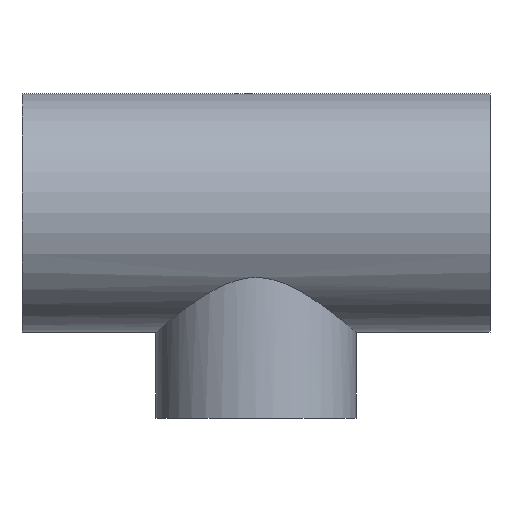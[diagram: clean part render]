
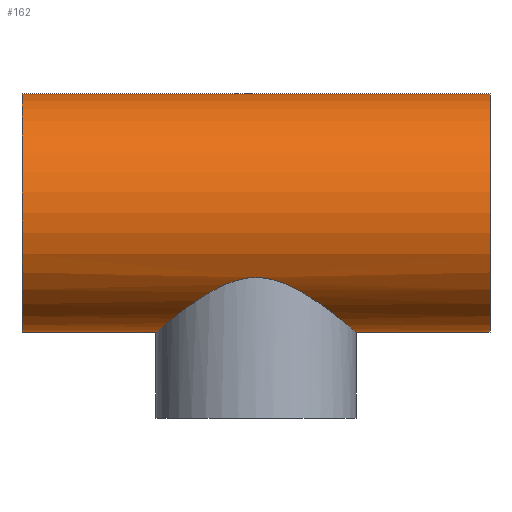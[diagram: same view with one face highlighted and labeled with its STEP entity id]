
A CAD part, top view. The second image highlights one B-rep face of the part: STEP entity #162.
In plain terms, the highlighted cylindrical face has radius 25 mm (diameter 50 mm), a full revolution.
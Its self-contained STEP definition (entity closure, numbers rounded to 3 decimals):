
#16=B_SPLINE_CURVE_WITH_KNOTS('',3,(#328,#329,#330,#331,#332,#333,#334,
#335,#336,#337,#338,#339,#340,#341,#342,#343,#344,#345,#346,#347,#348,#349,
#350,#351,#352,#353,#354,#355,#356,#357,#358,#359,#360,#361,#362,#363,#364,
#365,#366,#367,#368,#369,#370,#371,#372,#373,#374,#375,#376,#377,#378,#379,
#380,#381,#382,#383,#384,#385,#386,#387,#388,#389,#390,#391,#392,#393),
 .UNSPECIFIED.,.T.,.F.,(4,2,2,2,2,2,2,2,2,2,2,2,2,2,2,2,2,2,2,2,2,2,2,2,
2,2,2,2,2,2,2,2,4),(0.,0.439,0.878,1.317,
1.756,2.176,2.596,3.016,3.436,
3.856,4.276,4.696,5.116,5.555,
5.994,6.432,6.871,7.31,7.749,
8.188,8.627,9.047,9.467,9.887,
10.307,10.727,11.147,11.567,11.987,
12.426,12.865,13.304,13.743),
 .UNSPECIFIED.);
#32=FACE_BOUND('',#69,.T.);
#33=FACE_BOUND('',#70,.T.);
#46=FACE_OUTER_BOUND('',#68,.T.);
#68=EDGE_LOOP('',(#136));
#69=EDGE_LOOP('',(#137));
#70=EDGE_LOOP('',(#138));
#88=CIRCLE('',#187,25.);
#89=CIRCLE('',#188,25.);
#101=VERTEX_POINT('',#325);
#102=VERTEX_POINT('',#327);
#103=VERTEX_POINT('',#394);
#115=EDGE_CURVE('',#101,#101,#88,.T.);
#116=EDGE_CURVE('',#102,#102,#16,.T.);
#117=EDGE_CURVE('',#103,#103,#89,.T.);
#136=ORIENTED_EDGE('',*,*,#115,.F.);
#137=ORIENTED_EDGE('',*,*,#116,.T.);
#138=ORIENTED_EDGE('',*,*,#117,.F.);
#152=CYLINDRICAL_SURFACE('',#186,25.);
#162=ADVANCED_FACE('',(#46,#32,#33),#152,.T.);
#186=AXIS2_PLACEMENT_3D('',#324,#230,#231);
#187=AXIS2_PLACEMENT_3D('',#326,#232,#233);
#188=AXIS2_PLACEMENT_3D('',#395,#234,#235);
#230=DIRECTION('center_axis',(1.,0.,0.));
#231=DIRECTION('ref_axis',(0.,-1.,0.));
#232=DIRECTION('center_axis',(-1.,0.,0.));
#233=DIRECTION('ref_axis',(0.,-1.,0.));
#234=DIRECTION('center_axis',(1.,0.,0.));
#235=DIRECTION('ref_axis',(0.,-1.,0.));
#324=CARTESIAN_POINT('Origin',(0.,0.,0.));
#325=CARTESIAN_POINT('',(-49.,25.,0.));
#326=CARTESIAN_POINT('Origin',(-49.,0.,0.));
#327=CARTESIAN_POINT('',(0.,-13.565,21.));
#328=CARTESIAN_POINT('Ctrl Pts',(0.,-13.565,
21.));
#329=CARTESIAN_POINT('Ctrl Pts',(1.463,-13.565,21.));
#330=CARTESIAN_POINT('Ctrl Pts',(2.892,-13.807,20.847));
#331=CARTESIAN_POINT('Ctrl Pts',(5.645,-14.633,20.276));
#332=CARTESIAN_POINT('Ctrl Pts',(6.97,-15.212,19.857));
#333=CARTESIAN_POINT('Ctrl Pts',(9.49,-16.52,18.784));
#334=CARTESIAN_POINT('Ctrl Pts',(10.685,-17.248,18.128));
#335=CARTESIAN_POINT('Ctrl Pts',(12.907,-18.705,16.62));
#336=CARTESIAN_POINT('Ctrl Pts',(13.932,-19.435,15.766));
#337=CARTESIAN_POINT('Ctrl Pts',(15.727,-20.76,13.972));
#338=CARTESIAN_POINT('Ctrl Pts',(16.57,-21.409,12.971));
#339=CARTESIAN_POINT('Ctrl Pts',(18.085,-22.602,10.758));
#340=CARTESIAN_POINT('Ctrl Pts',(18.757,-23.146,9.546));
#341=CARTESIAN_POINT('Ctrl Pts',(19.857,-24.046,6.974));
#342=CARTESIAN_POINT('Ctrl Pts',(20.286,-24.403,5.611));
#343=CARTESIAN_POINT('Ctrl Pts',(20.858,-24.88,2.824));
#344=CARTESIAN_POINT('Ctrl Pts',(21.,-25.,1.4));
#345=CARTESIAN_POINT('Ctrl Pts',(21.,-25.,-1.4));
#346=CARTESIAN_POINT('Ctrl Pts',(20.858,-24.88,-2.824));
#347=CARTESIAN_POINT('Ctrl Pts',(20.286,-24.403,-5.611));
#348=CARTESIAN_POINT('Ctrl Pts',(19.857,-24.046,-6.974));
#349=CARTESIAN_POINT('Ctrl Pts',(18.757,-23.146,-9.546));
#350=CARTESIAN_POINT('Ctrl Pts',(18.085,-22.602,-10.758));
#351=CARTESIAN_POINT('Ctrl Pts',(16.57,-21.409,-12.971));
#352=CARTESIAN_POINT('Ctrl Pts',(15.727,-20.76,-13.972));
#353=CARTESIAN_POINT('Ctrl Pts',(13.932,-19.435,-15.766));
#354=CARTESIAN_POINT('Ctrl Pts',(12.907,-18.705,-16.62));
#355=CARTESIAN_POINT('Ctrl Pts',(10.685,-17.248,-18.128));
#356=CARTESIAN_POINT('Ctrl Pts',(9.49,-16.52,-18.784));
#357=CARTESIAN_POINT('Ctrl Pts',(6.97,-15.212,-19.857));
#358=CARTESIAN_POINT('Ctrl Pts',(5.645,-14.633,-20.276));
#359=CARTESIAN_POINT('Ctrl Pts',(2.892,-13.807,-20.847));
#360=CARTESIAN_POINT('Ctrl Pts',(1.463,-13.565,-21.));
#361=CARTESIAN_POINT('Ctrl Pts',(-1.463,-13.565,-21.));
#362=CARTESIAN_POINT('Ctrl Pts',(-2.892,-13.807,-20.847));
#363=CARTESIAN_POINT('Ctrl Pts',(-5.645,-14.633,-20.276));
#364=CARTESIAN_POINT('Ctrl Pts',(-6.97,-15.212,-19.857));
#365=CARTESIAN_POINT('Ctrl Pts',(-9.49,-16.52,-18.784));
#366=CARTESIAN_POINT('Ctrl Pts',(-10.685,-17.248,-18.128));
#367=CARTESIAN_POINT('Ctrl Pts',(-12.907,-18.705,-16.62));
#368=CARTESIAN_POINT('Ctrl Pts',(-13.932,-19.435,-15.766));
#369=CARTESIAN_POINT('Ctrl Pts',(-15.727,-20.76,-13.972));
#370=CARTESIAN_POINT('Ctrl Pts',(-16.57,-21.409,-12.971));
#371=CARTESIAN_POINT('Ctrl Pts',(-18.085,-22.602,-10.758));
#372=CARTESIAN_POINT('Ctrl Pts',(-18.757,-23.146,-9.546));
#373=CARTESIAN_POINT('Ctrl Pts',(-19.857,-24.046,-6.974));
#374=CARTESIAN_POINT('Ctrl Pts',(-20.286,-24.403,-5.611));
#375=CARTESIAN_POINT('Ctrl Pts',(-20.858,-24.88,-2.824));
#376=CARTESIAN_POINT('Ctrl Pts',(-21.,-25.,-1.4));
#377=CARTESIAN_POINT('Ctrl Pts',(-21.,-25.,1.4));
#378=CARTESIAN_POINT('Ctrl Pts',(-20.858,-24.88,2.824));
#379=CARTESIAN_POINT('Ctrl Pts',(-20.286,-24.403,5.611));
#380=CARTESIAN_POINT('Ctrl Pts',(-19.857,-24.046,6.974));
#381=CARTESIAN_POINT('Ctrl Pts',(-18.757,-23.146,9.546));
#382=CARTESIAN_POINT('Ctrl Pts',(-18.085,-22.602,10.758));
#383=CARTESIAN_POINT('Ctrl Pts',(-16.57,-21.409,12.971));
#384=CARTESIAN_POINT('Ctrl Pts',(-15.727,-20.76,13.972));
#385=CARTESIAN_POINT('Ctrl Pts',(-13.932,-19.435,15.766));
#386=CARTESIAN_POINT('Ctrl Pts',(-12.907,-18.705,16.62));
#387=CARTESIAN_POINT('Ctrl Pts',(-10.685,-17.248,18.128));
#388=CARTESIAN_POINT('Ctrl Pts',(-9.49,-16.52,18.784));
#389=CARTESIAN_POINT('Ctrl Pts',(-6.97,-15.212,19.857));
#390=CARTESIAN_POINT('Ctrl Pts',(-5.645,-14.633,20.276));
#391=CARTESIAN_POINT('Ctrl Pts',(-2.892,-13.807,20.847));
#392=CARTESIAN_POINT('Ctrl Pts',(-1.463,-13.565,21.));
#393=CARTESIAN_POINT('Ctrl Pts',(0.,-13.565,
21.));
#394=CARTESIAN_POINT('',(49.,25.,0.));
#395=CARTESIAN_POINT('Origin',(49.,0.,0.));
